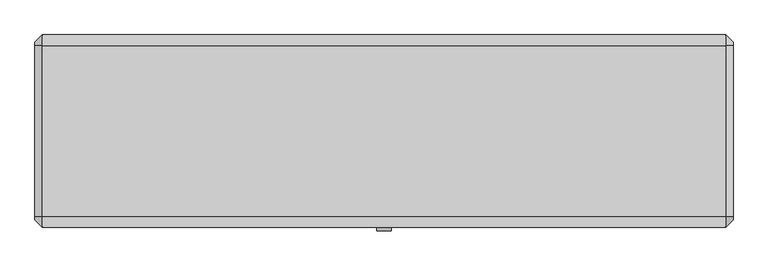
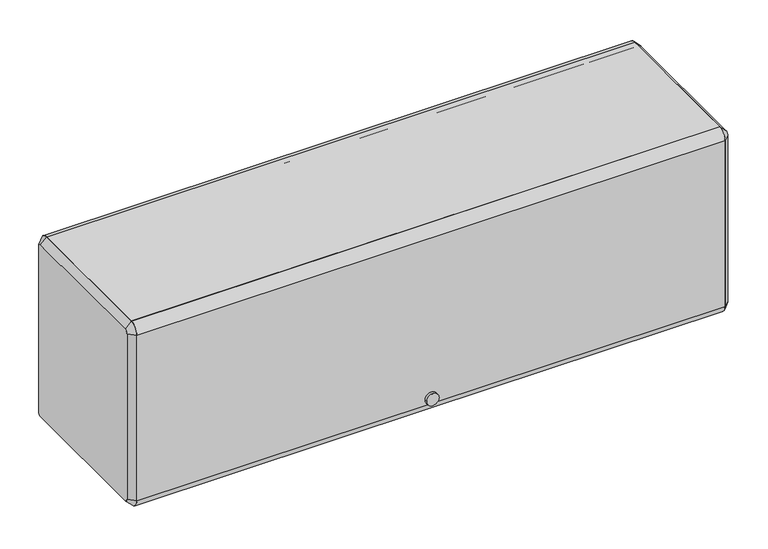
"""IFC4 building model written with IfcOpenShell, lengths in millimetres: furniture geometry."""

import ifcopenshell
import ifcopenshell.guid

model = None  # the IFC model being written
_history = None  # IfcOwnerHistory: only IFC2X3 demands one
_inside = {}  # id of a spatial element -> (the spatial element, [elements in it])
_under = {}  # id of a project, library or spatial element -> (it, [spatial elements below it])
_declared = {}  # id of a project -> (the project, [libraries it declares])
_typed = {}  # id of a type object -> (the type object, [elements of that type])
_made_of = {}  # id of a material, layer set ... -> (it, [elements and type objects made of it])


def new_model(schema):
    """Start an empty IFC model of exactly this schema.

    Asked for "IFC4X3", IfcOpenShell would pick the latest addendum, in which some entities
    have other attributes; the version numbers below select the first issue.
    IFC2X3 requires an IfcOwnerHistory on every rooted entity: one is made here for all.
    """
    global model, _history
    if schema == "IFC4X3":
        model = ifcopenshell.file(schema_version=(4, 3, 0, 0))
    else:
        model = ifcopenshell.file(schema=schema)
    _inside.clear()
    _under.clear()
    _declared.clear()
    _typed.clear()
    _made_of.clear()
    _history = None
    if model.schema == "IFC2X3":
        org = make("IfcOrganization", Name="unknown")
        user = make(
            "IfcPersonAndOrganization",
            ThePerson=make("IfcPerson", FamilyName="unknown"),
            TheOrganization=org,
        )
        app = make(
            "IfcApplication",
            ApplicationDeveloper=org,
            Version="unknown",
            ApplicationFullName="unknown",
            ApplicationIdentifier="unknown",
        )
        _history = make(
            "IfcOwnerHistory",
            OwningUser=user,
            OwningApplication=app,
            ChangeAction="ADDED",
            CreationDate=0,
        )
    return model


def make(cls, **values):
    """One entity of the class cls with the attributes given. An attribute that is None is left unset."""
    return model.create_entity(
        cls, **{name: value for name, value in values.items() if value is not None}
    )


def rooted(cls, **values):
    """An entity with a GlobalId (a new one), such as an element, a storey or a relation."""
    return make(cls, GlobalId=ifcopenshell.guid.new(), OwnerHistory=_history, **values)


def si_unit(unit_type, name, prefix=None):
    """IfcSIUnit, for example si_unit("LENGTHUNIT", "METRE", prefix="MILLI")."""
    return make("IfcSIUnit", UnitType=unit_type, Prefix=prefix, Name=name)


def assignment(units):
    """IfcUnitAssignment: the units of a project."""
    return None if units is None else make("IfcUnitAssignment", Units=units)


def point(xyz):
    """IfcCartesianPoint."""
    return None if xyz is None else make("IfcCartesianPoint", Coordinates=xyz)


def direction(xyz):
    """IfcDirection."""
    return None if xyz is None else make("IfcDirection", DirectionRatios=xyz)


def frame(location, z_axis=None, x_axis=None):
    """IfcAxis2Placement3D, a coordinate frame: its origin and axes. An axis left out is left unset."""
    return make(
        "IfcAxis2Placement3D",
        Location=point(location),
        Axis=direction(z_axis),
        RefDirection=direction(x_axis),
    )


def frame_2d(location, x_axis=None):
    """IfcAxis2Placement2D, a coordinate frame in the plane: its origin and x axis."""
    return make(
        "IfcAxis2Placement2D", Location=point(location), RefDirection=direction(x_axis)
    )


def origin():
    """The frame at (0, 0, 0) with its axes left unset."""
    return frame((0.0, 0.0, 0.0))


def place(relative_to, where):
    """IfcLocalPlacement: puts the frame where relative to a parent placement (None: the world)."""
    return make(
        "IfcLocalPlacement", PlacementRelTo=relative_to, RelativePlacement=where
    )


def context(
    kind, dimensions, precision=None, world=None, true_north=None, identifier=None
):
    """IfcGeometricRepresentationContext, for example the 3D "Model" context."""
    return make(
        "IfcGeometricRepresentationContext",
        ContextIdentifier=identifier,
        ContextType=kind,
        CoordinateSpaceDimension=dimensions,
        Precision=precision,
        WorldCoordinateSystem=world,
        TrueNorth=true_north,
    )


def project(units=None, contexts=None):
    """IfcProject with its units and contexts."""
    return rooted(
        "IfcProject",
        Name="project",
        RepresentationContexts=contexts,
        UnitsInContext=assignment(units),
    )


def spatial(cls, under=None, at=None, **own):
    """A site, building, storey or space (cls), placed at a placement, below another one or the project."""
    s = rooted(cls, ObjectPlacement=at, **own)
    if under is not None:
        _under.setdefault(under.id(), (under, []))[1].append(s)
    return s


def polyline(points):
    """IfcPolyline through the points."""
    return make("IfcPolyline", Points=[point(p) for p in points])


def circle_curve(where, radius):
    """IfcCircle in the frame where."""
    return make("IfcCircle", Position=where, Radius=radius)


def trimmed(basis, trim1, trim2, sense, master):
    """IfcTrimmedCurve: the piece of a basis curve between two trims."""
    return make(
        "IfcTrimmedCurve",
        BasisCurve=basis,
        Trim1=trim1,
        Trim2=trim2,
        SenseAgreement=sense,
        MasterRepresentation=master,
    )


def segment(curve, same_sense, transition):
    """IfcCompositeCurveSegment."""
    return make(
        "IfcCompositeCurveSegment",
        Transition=transition,
        SameSense=same_sense,
        ParentCurve=curve,
    )


def composite_curve(segments, self_intersect=None):
    """IfcCompositeCurve: segments joined end to end."""
    return make("IfcCompositeCurve", Segments=segments, SelfIntersect=self_intersect)


def outline(outer, holes=None, kind="AREA"):
    """IfcArbitraryClosedProfileDef: a profile drawn as a closed curve; with holes, ...WithVoids."""
    if holes is None:
        return make("IfcArbitraryClosedProfileDef", ProfileType=kind, OuterCurve=outer)
    return make(
        "IfcArbitraryProfileDefWithVoids",
        ProfileType=kind,
        OuterCurve=outer,
        InnerCurves=holes,
    )


def extrude(swept, where, along, depth):
    """IfcExtrudedAreaSolid: the profile swept, set in the frame where, extruded along a direction by depth."""
    return make(
        "IfcExtrudedAreaSolid",
        SweptArea=swept,
        Position=where,
        ExtrudedDirection=direction(along),
        Depth=depth,
    )


def shape(context_of_items, identifier, shape_type, items):
    """IfcShapeRepresentation: the items that make up one representation, for example the "Body"."""
    return make(
        "IfcShapeRepresentation",
        ContextOfItems=context_of_items,
        RepresentationIdentifier=identifier,
        RepresentationType=shape_type,
        Items=items,
    )


def source(mapping_origin, context_of_items, identifier, shape_type, items):
    """IfcRepresentationMap: a shape defined once, which mapped items show again and again."""
    return make(
        "IfcRepresentationMap",
        MappingOrigin=mapping_origin,
        MappedRepresentation=shape(context_of_items, identifier, shape_type, items),
    )


def transform(
    local_origin,
    x_axis=None,
    y_axis=None,
    z_axis=None,
    scale=None,
    scale2=None,
    scale3=None,
    uniform=True,
):
    """IfcCartesianTransformationOperator3D, or its non-uniform kind. x_axis, y_axis, z_axis: its Axis1, 2, 3."""
    if uniform:
        return make(
            "IfcCartesianTransformationOperator3D",
            Axis1=direction(x_axis),
            Axis2=direction(y_axis),
            LocalOrigin=point(local_origin),
            Scale=scale,
            Axis3=direction(z_axis),
        )
    return make(
        "IfcCartesianTransformationOperator3DnonUniform",
        Axis1=direction(x_axis),
        Axis2=direction(y_axis),
        LocalOrigin=point(local_origin),
        Scale=scale,
        Axis3=direction(z_axis),
        Scale2=scale2,
        Scale3=scale3,
    )


def mapped(mapping_source, mapping_target):
    """IfcMappedItem: shows the shape of a source again, moved by a transform."""
    return make(
        "IfcMappedItem", MappingSource=mapping_source, MappingTarget=mapping_target
    )


def made_of(thing, what):
    """Note that an element or type object is made of a material, layer set ...; save() writes the relation."""
    if what is not None:
        _made_of.setdefault(what.id(), (what, []))[1].append(thing)
    return thing


def element(
    cls,
    number,
    at=None,
    inside=None,
    cuts=None,
    type_object=None,
    material=None,
    context=None,
    identifier="Body",
    shape_type=None,
    held_by="IfcProductDefinitionShape",
    body=None,
    shapes=None,
    **own,
):
    """One element of the class cls, such as IfcWall. Its Tag is "e" and its number.

    at: its placement. inside: the storey or other place that contains it. cuts: it is an
    opening in that element (IfcRelVoidsElement). A single representation is given by context,
    identifier, shape_type and body (its items); several are given by shapes. held_by: the class
    of the entity that holds the representations. save() writes the other relations.
    """
    e = rooted(cls, Tag="e%d" % number, ObjectPlacement=at, **own)
    if body is not None:
        shapes = [shape(context, identifier, shape_type, body)]
    if shapes is not None:
        e.Representation = make(held_by, Representations=shapes)
    if inside is not None:
        _inside.setdefault(inside.id(), (inside, []))[1].append(e)
    if cuts is not None:
        rooted(
            "IfcRelVoidsElement", RelatingBuildingElement=cuts, RelatedOpeningElement=e
        )
    if type_object is not None:
        _typed.setdefault(type_object.id(), (type_object, []))[1].append(e)
    return made_of(e, material)


def aggregate(whole, parts):
    """IfcRelAggregates: a whole, such as a stair, and the parts it consists of."""
    return rooted("IfcRelAggregates", RelatingObject=whole, RelatedObjects=parts)


def save(model, path):
    """Write the relations noted so far, then the file.

    IfcRelAggregates (storeys below a building ...), IfcRelContainedInSpatialStructure (elements
    in a storey), IfcRelDefinesByType, IfcRelAssociatesMaterial and IfcRelDeclares: one each for
    every whole, place, type object, material and project.
    """
    for whole, parts in _under.values():
        aggregate(whole, parts)
    for where, things in _inside.values():
        rooted(
            "IfcRelContainedInSpatialStructure",
            RelatedElements=things,
            RelatingStructure=where,
        )
    for kind, things in _typed.values():
        rooted("IfcRelDefinesByType", RelatedObjects=things, RelatingType=kind)
    for what, things in _made_of.values():
        rooted("IfcRelAssociatesMaterial", RelatedObjects=things, RelatingMaterial=what)
    for by, libraries in _declared.values():
        rooted("IfcRelDeclares", RelatingContext=by, RelatedDefinitions=libraries)
    model.write(path)


def plane_surface(at):
    """IfcPlane: the flat surface through the origin of the frame at, square to its z axis."""
    return make("IfcPlane", Position=at)


def revolved_surface(curve, axis_point, axis_direction):
    """IfcSurfaceOfRevolution: the curve turned about the line through axis_point along axis_direction."""
    return make(
        "IfcSurfaceOfRevolution",
        SweptCurve=make("IfcArbitraryOpenProfileDef", ProfileType="CURVE", Curve=curve),
        AxisPosition=make("IfcAxis1Placement", Location=point(axis_point), Axis=direction(axis_direction)),
    )


def advanced_brep(points, edges, surfaces, faces):
    """IfcAdvancedBrep: a solid bounded by faces that lie on surfaces and meet in shared edges.

    An edge is (start, end): straight between two places in points (the first is 0);
    or (start, end, curve); or (start, end, curve, False) where it runs against its curve.
    A face is (place in surfaces, loops), or (place, loops, False) where it looks against
    its surface's normal. A loop lists edges by number (the first is 1), with a minus sign
    where the edge is run from its end to its start. The first loop is the outer one.
    """
    corners = [point(p) for p in points]
    vertices = [make("IfcVertexPoint", VertexGeometry=c) for c in corners]
    made = []
    for start, end, *more in edges:
        made.append(
            make(
                "IfcEdgeCurve",
                EdgeStart=vertices[start],
                EdgeEnd=vertices[end],
                EdgeGeometry=more[0] if more else make("IfcPolyline", Points=[corners[start], corners[end]]),
                SameSense=more[1] if len(more) > 1 else True,
            )
        )
    hull = []
    for where, loops, *sense in faces:
        bounds = []
        for j, loop in enumerate(loops):
            ring = [make("IfcOrientedEdge", EdgeElement=made[abs(k) - 1], Orientation=k > 0) for k in loop]
            bounds.append(
                make(
                    "IfcFaceOuterBound" if j == 0 else "IfcFaceBound",
                    Bound=make("IfcEdgeLoop", EdgeList=ring),
                    Orientation=True,
                )
            )
        hull.append(make("IfcAdvancedFace", Bounds=bounds, FaceSurface=surfaces[where], SameSense=sense[0] if sense else True))
    return make("IfcAdvancedBrep", Outer=make("IfcClosedShell", CfsFaces=hull))


def furniture_326329ec(model_context):
    return source(origin(), model_context, "Body", "SolidModel", [
        extrude(outline(composite_curve([segment(polyline([(-136.525, 2089.15), (-136.525, 2101.85), (161.925, 2101.85)]), True, "CONTINUOUS"), segment(trimmed(circle_curve(frame_2d((161.925, 2082.8)), 19.05), [point((161.925, 2101.85))], [point((180.975, 2082.8))], False, "CARTESIAN"), True, "CONTINUOUS"), segment(polyline([(180.975, 2082.8), (168.275, 2082.8)]), True, "CONTINUOUS"), segment(trimmed(circle_curve(frame_2d((161.925, 2082.8)), 6.35), [point((168.275, 2082.8))], [point((161.925, 2089.15))], True, "CARTESIAN"), True, "CONTINUOUS"), segment(polyline([(161.925, 2089.15), (-136.525, 2089.15)]), True, "CONTINUOUS")], self_intersect=False)), frame((-596.9, 0.0, 0.0), z_axis=(1.0, 0.0, 0.0), x_axis=(0.0, 1.0, 0.0)), (0.0, 0.0, 1.0), 1193.8),
        extrude(outline(composite_curve([segment(trimmed(circle_curve(frame_2d((-136.525, 2082.8)), 19.05), [point((-155.575, 2082.8))], [point((-136.525, 2101.85))], False, "CARTESIAN"), True, "CONTINUOUS"), segment(polyline([(-136.525, 2101.85), (-136.525, 2089.15)]), True, "CONTINUOUS"), segment(trimmed(circle_curve(frame_2d((-136.525, 2082.8)), 6.35), [point((-136.525, 2089.15))], [point((-142.875, 2082.8))], True, "CARTESIAN"), True, "CONTINUOUS"), segment(polyline([(-142.875, 2082.8), (-142.875, 1727.2)]), True, "CONTINUOUS"), segment(trimmed(circle_curve(frame_2d((-136.525, 1727.2)), 6.35), [point((-142.875, 1727.2))], [point((-136.525, 1720.85))], True, "CARTESIAN"), True, "CONTINUOUS"), segment(polyline([(-136.525, 1720.85), (-136.525, 1708.15)]), True, "CONTINUOUS"), segment(trimmed(circle_curve(frame_2d((-136.525, 1727.2)), 19.05), [point((-136.525, 1708.15))], [point((-155.575, 1727.2))], False, "CARTESIAN"), True, "CONTINUOUS"), segment(polyline([(-155.575, 1727.2), (-155.575, 2082.8)]), True, "CONTINUOUS")], self_intersect=False)), frame((-596.9, 0.0, 0.0), z_axis=(1.0, 0.0, 0.0), x_axis=(0.0, 1.0, 0.0)), (0.0, 0.0, 1.0), 1193.8),
        extrude(outline(composite_curve([segment(trimmed(circle_curve(frame_2d((1739.8618906, 0.0201199)), 12.7253951), [point((1739.8618906, 12.745515))], [point((1739.8618906, -12.7052752))], False, "CARTESIAN"), True, "CONTINUOUS"), segment(trimmed(circle_curve(frame_2d((1739.8618906, 0.0201199)), 12.7253951), [point((1739.8618906, -12.7052752))], [point((1739.8618906, 12.745515))], False, "CARTESIAN"), True, "CONTINUOUS")], self_intersect=False)), frame((0.0, -161.925, 0.0), z_axis=(0.0, 1.0, 0.0), x_axis=(0.0, 0.0, 1.0)), (0.0, 0.0, 1.0), 6.35),
        extrude(outline(polyline([(-136.525, 1746.25), (161.925, 1746.25), (161.925, 1784.35), (174.625, 1784.35), (174.625, 1781.175), (165.1, 1781.175), (165.1, 1743.075), (-133.35, 1743.075), (-133.35, 1724.025), (-136.525, 1724.025), (-136.525, 1746.25)])), frame((-596.9, 0.0, 0.0), z_axis=(1.0, 0.0, 0.0), x_axis=(0.0, 1.0, 0.0)), (0.0, 0.0, 1.0), 1193.8),
        advanced_brep(
        [(609.6, 161.925, 2089.15), (609.6, -136.525, 2089.15), (609.6, -142.875, 2082.8), (609.6, -142.875, 1727.2), (609.6, -136.525, 1720.85), (609.6, 161.925, 1720.85), (609.6, 168.275, 1727.2), (609.6, 168.275, 2082.8), (596.9, 161.925, 2101.85), (596.9, 180.975, 2082.8), (596.9, 180.975, 1727.2), (596.9, 161.925, 1708.15), (596.9, -136.525, 1708.15), (596.9, -155.575, 1727.2), (596.9, -155.575, 2082.8), (596.9, -136.525, 2101.85)],
        [
            (0, 1),
            (1, 2, circle_curve(frame((609.6, -136.525, 2082.8), z_axis=(1.0, 6.493472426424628e-12, -6.586731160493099e-12), x_axis=(6.586694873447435e-12, 0.0, 1.0)), 6.35)),
            (2, 3),
            (3, 4, circle_curve(frame((609.6, -136.525, 1727.2), z_axis=(1.0, 3.3733016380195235e-12, 3.3892888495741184e-12), x_axis=(3.373343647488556e-12, -1.0, 0.0)), 6.35)),
            (4, 5),
            (5, 6, circle_curve(frame((609.6, 161.925, 1727.2), z_axis=(1.0, 3.3786307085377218e-12, -3.3892888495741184e-12), x_axis=(-3.389358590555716e-12, 0.0, -1.0)), 6.35)),
            (6, 7),
            (7, 0, circle_curve(frame((609.6, 161.925, 2082.8), z_axis=(1.0, 6.482814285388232e-12, 6.39488462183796e-12), x_axis=(-6.48275475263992e-12, 1.0, 0.0)), 6.35)),
            (8, 9, circle_curve(frame((596.9, 161.925, 2082.8), z_axis=(-1.0, -6.482814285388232e-12, -6.39488462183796e-12), x_axis=(-6.48275475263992e-12, 1.0, 0.0)), 19.05)),
            (9, 10),
            (10, 11, circle_curve(frame((596.9, 161.925, 1727.2), z_axis=(-1.0, -3.3786307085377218e-12, 3.3892888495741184e-12), x_axis=(-3.389358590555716e-12, 0.0, -1.0)), 19.05)),
            (11, 12),
            (12, 13, circle_curve(frame((596.9, -136.525, 1727.2), z_axis=(-1.0, -3.3733016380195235e-12, -3.3892888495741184e-12), x_axis=(3.373343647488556e-12, -1.0, 0.0)), 19.05)),
            (13, 14),
            (14, 15, circle_curve(frame((596.9, -136.525, 2082.8), z_axis=(-1.0, -6.493472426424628e-12, 6.586731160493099e-12), x_axis=(6.586694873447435e-12, 0.0, 1.0)), 19.05)),
            (15, 8),
            (15, 1),
            (0, 8),
            (14, 2),
            (13, 3),
            (12, 4),
            (11, 5),
            (10, 6),
            (9, 7),
        ],
        [
            plane_surface(frame((609.6, 12.7, 1905.0), z_axis=(1.0, 0.0, 0.0), x_axis=(0.0, -1.0, 0.0))),
            plane_surface(frame((596.9, 12.7, 1905.0), z_axis=(-1.0, 0.0, 0.0), x_axis=(0.0, -1.0, 0.0))),
            plane_surface(frame((596.9, 12.7, 2101.85), z_axis=(0.7071067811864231, 0.0, 0.7071067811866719), x_axis=(0.0, -1.0, 0.0))),
            revolved_surface(polyline([(609.6000000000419, -136.525, 2089.1499999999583), (596.9, -136.525, 2101.85)]), (615.95, -136.525, 2082.8), (-1.0, -6.493472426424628e-12, 6.586731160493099e-12)),
            plane_surface(frame((596.9, -155.575, 1905.0), z_axis=(0.7071067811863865, -0.7071067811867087, 0.0), x_axis=(0.0, 0.0, -1.0))),
            revolved_surface(polyline([(609.6000000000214, -142.87499999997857, 1727.2), (596.8999999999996, -155.5750000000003, 1727.2)]), (615.95, -136.525, 1727.2), (-1.0, -3.3733016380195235e-12, -3.3892888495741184e-12)),
            plane_surface(frame((596.9, 12.7, 1708.15), z_axis=(0.7071067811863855, 0.0, -0.7071067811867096), x_axis=(0.0, 1.0, 0.0))),
            revolved_surface(polyline([(609.6, 161.925, 1720.8500000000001), (596.8999999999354, 161.925, 1708.1499999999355)]), (615.95, 161.925, 1727.2), (-1.0, -3.3786307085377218e-12, 3.3892888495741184e-12)),
            plane_surface(frame((596.9, 180.975, 1905.0), z_axis=(0.7071067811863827, 0.7071067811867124, 0.0), x_axis=(0.0, 0.0, 1.0))),
            revolved_surface(polyline([(609.6, 168.275, 2082.8), (596.8999999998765, 180.9750000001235, 2082.8)]), (615.95, 161.925, 2082.8), (-1.0, -6.482814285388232e-12, -6.39488462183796e-12)),
        ],
        [
            (0, [[1, 2, 3, 4, 5, 6, 7, 8]]),
            (1, [[9, 10, 11, 12, 13, 14, 15, 16]]),
            (2, [[-16, 17, -1, 18]]),
            (3, [[-15, 19, -2, -17]]),
            (4, [[-14, 20, -3, -19]]),
            (5, [[-13, 21, -4, -20]]),
            (6, [[-12, 22, -5, -21]]),
            (7, [[-11, 23, -6, -22]]),
            (8, [[-10, 24, -7, -23]]),
            (9, [[-9, -18, -8, -24]]),
        ],
    ),
        advanced_brep(
        [(-609.6, -136.525, 2089.15), (-609.6, 161.925, 2089.15), (-609.6, 168.275, 2082.8), (-609.6, 168.275, 1727.2), (-609.6, 161.925, 1720.85), (-609.6, -136.525, 1720.85), (-609.6, -142.875, 1727.2), (-609.6, -142.875, 2082.8), (-596.9, -136.525, 2101.85), (-596.9, -155.575, 2082.8), (-596.9, -155.575, 1727.2), (-596.9, -136.525, 1708.15), (-596.9, 161.925, 1708.15), (-596.9, 180.975, 1727.2), (-596.9, 180.975, 2082.8), (-596.9, 161.925, 2101.85)],
        [
            (0, 1),
            (1, 2, circle_curve(frame((-609.6, 161.925, 2082.8), z_axis=(-1.0, 3.365308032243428e-12, 3.4319214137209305e-12), x_axis=(3.4319080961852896e-12, 0.0, 1.0)), 6.35)),
            (2, 3),
            (3, 4, circle_curve(frame((-609.6, 161.925, 1727.2), z_axis=(-1.0, 0.0, 0.0), x_axis=(0.0, 1.0, 0.0)), 6.35)),
            (4, 5),
            (5, 6, circle_curve(frame((-609.6, -136.525, 1727.2), z_axis=(-1.0, 0.0, 0.0), x_axis=(0.0, 0.0, -1.0)), 6.35)),
            (6, 7),
            (7, 0, circle_curve(frame((-609.6, -136.525, 2082.8), z_axis=(-1.0, 3.381295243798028e-12, -3.3040237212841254e-12), x_axis=(-3.3813511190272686e-12, -1.0, 0.0)), 6.35)),
            (8, 9, circle_curve(frame((-596.9, -136.525, 2082.8), z_axis=(1.0, -3.381295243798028e-12, 3.3040237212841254e-12), x_axis=(-3.3813511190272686e-12, -1.0, 0.0)), 19.05)),
            (9, 10),
            (10, 11, circle_curve(frame((-596.9, -136.525, 1727.2), z_axis=(1.0, 0.0, 0.0), x_axis=(0.0, 0.0, -1.0)), 19.05)),
            (11, 12),
            (12, 13, circle_curve(frame((-596.9, 161.925, 1727.2), z_axis=(1.0, 0.0, 0.0), x_axis=(0.0, 1.0, 0.0)), 19.05)),
            (13, 14),
            (14, 15, circle_curve(frame((-596.9, 161.925, 2082.8), z_axis=(1.0, -3.365308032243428e-12, -3.4319214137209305e-12), x_axis=(3.4319080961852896e-12, 0.0, 1.0)), 19.05)),
            (15, 8),
            (15, 1),
            (0, 8),
            (14, 2),
            (13, 3),
            (12, 4),
            (11, 5),
            (10, 6),
            (9, 7),
        ],
        [
            plane_surface(frame((-609.6, 12.7, 1905.0), z_axis=(-1.0, 0.0, 0.0), x_axis=(0.0, -1.0, 0.0))),
            plane_surface(frame((-596.9, 12.7, 1905.0), z_axis=(1.0, 0.0, 0.0), x_axis=(0.0, -1.0, 0.0))),
            plane_surface(frame((-596.9, 12.7, 2101.85), z_axis=(-0.7071067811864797, 0.0, 0.7071067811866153), x_axis=(0.0, 1.0, 0.0))),
            revolved_surface(polyline([(-609.6, 161.925, 2089.15), (-596.8999999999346, 161.925, 2101.8500000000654)]), (-615.95, 161.925, 2082.8), (1.0, -3.365308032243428e-12, -3.4319214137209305e-12)),
            plane_surface(frame((-596.9, 180.975, 1905.0), z_axis=(-0.7071067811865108, 0.7071067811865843, 0.0), x_axis=(0.0, 0.0, -1.0))),
            revolved_surface(polyline([(-609.6, 168.275, 1727.2), (-596.9, 180.975, 1727.2)]), (-615.95, 161.925, 1727.2), (1.0, 0.0, 0.0)),
            plane_surface(frame((-596.9, 12.7, 1708.15), z_axis=(-0.7071067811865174, 0.0, -0.7071067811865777), x_axis=(0.0, -1.0, 0.0))),
            revolved_surface(polyline([(-609.6, -136.525, 1720.8500000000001), (-596.9, -136.525, 1708.15)]), (-615.95, -136.525, 1727.2), (1.0, 0.0, 0.0)),
            plane_surface(frame((-596.9, -155.575, 1905.0), z_axis=(-0.7071067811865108, -0.7071067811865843, 0.0), x_axis=(0.0, 0.0, 1.0))),
            revolved_surface(polyline([(-609.6000000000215, -142.87499999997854, 2082.8), (-596.9, -155.575, 2082.8)]), (-615.95, -136.525, 2082.8), (1.0, -3.381295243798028e-12, 3.3040237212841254e-12)),
        ],
        [
            (0, [[1, 2, 3, 4, 5, 6, 7, 8]]),
            (1, [[9, 10, 11, 12, 13, 14, 15, 16]]),
            (2, [[-16, 17, -1, 18]]),
            (3, [[-15, 19, -2, -17]]),
            (4, [[-14, 20, -3, -19]]),
            (5, [[-13, 21, -4, -20]]),
            (6, [[-12, 22, -5, -21]]),
            (7, [[-11, 23, -6, -22]]),
            (8, [[-10, 24, -7, -23]]),
            (9, [[-9, -18, -8, -24]]),
        ],
    ),
    ])


if __name__ == "__main__":
    model = new_model("IFC4")
    model_context = context("Model", 3, world=origin())
    ifc_project = project(units=[si_unit("LENGTHUNIT", "METRE", prefix="MILLI")], contexts=[model_context])
    site = spatial("IfcSite", under=ifc_project)
    building = spatial("IfcBuilding", under=site)
    placement = place(None, origin())
    furniture_shape = furniture_326329ec(model_context)
    element("IfcFurniture", 1, ObjectType="HermanMiller_ActionOffice_A3352_B-StyleFlipperDoorUnit : 15 1/2\"H x 13\"D x 48\"W", at=placement, inside=building, context=model_context, shape_type="MappedRepresentation", body=[
        mapped(furniture_shape, transform((0.0, 0.0, 0.0), x_axis=(1.0, 0.0, 0.0), y_axis=(0.0, 1.0, 0.0), z_axis=(0.0, 0.0, 1.0))),
    ])
    save(model, "model.ifc")
